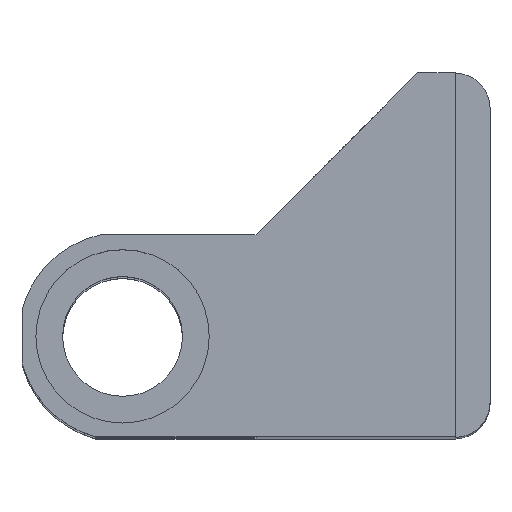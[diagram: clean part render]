
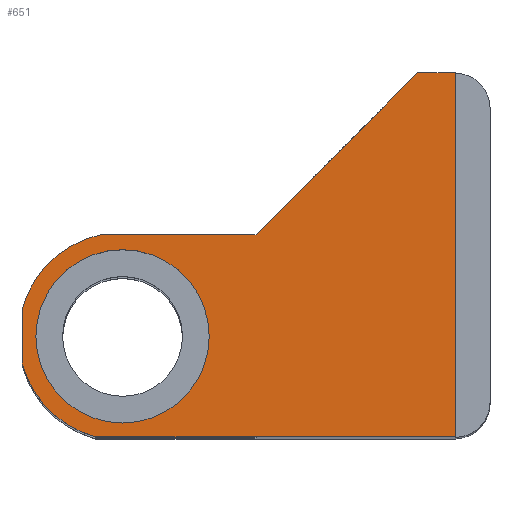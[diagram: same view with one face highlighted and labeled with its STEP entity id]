
A CAD part, top view. The second image highlights one B-rep face of the part: STEP entity #651.
In plain terms, the highlighted planar face has unit normal (0, 0, 1).
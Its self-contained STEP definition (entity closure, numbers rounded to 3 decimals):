
#24=FACE_BOUND('',#102,.T.);
#41=PLANE('',#714);
#62=FACE_OUTER_BOUND('',#101,.T.);
#101=EDGE_LOOP('',(#476,#477,#478,#479,#480,#481,#482,#483));
#102=EDGE_LOOP('',(#484));
#154=LINE('',#997,#213);
#161=LINE('',#1015,#220);
#169=LINE('',#1031,#228);
#170=LINE('',#1033,#229);
#171=LINE('',#1037,#230);
#172=LINE('',#1039,#231);
#213=VECTOR('',#791,10.);
#220=VECTOR('',#808,10.);
#228=VECTOR('',#818,10.);
#229=VECTOR('',#819,10.);
#230=VECTOR('',#822,10.);
#231=VECTOR('',#825,10.);
#271=CIRCLE('',#715,6.);
#272=CIRCLE('',#716,6.);
#273=CIRCLE('',#717,5.);
#303=VERTEX_POINT('',#994);
#304=VERTEX_POINT('',#996);
#309=VERTEX_POINT('',#1012);
#310=VERTEX_POINT('',#1014);
#317=VERTEX_POINT('',#1030);
#318=VERTEX_POINT('',#1032);
#319=VERTEX_POINT('',#1034);
#320=VERTEX_POINT('',#1036);
#321=VERTEX_POINT('',#1040);
#364=EDGE_CURVE('',#303,#304,#154,.T.);
#373=EDGE_CURVE('',#309,#310,#161,.T.);
#381=EDGE_CURVE('',#317,#303,#169,.T.);
#382=EDGE_CURVE('',#318,#317,#170,.T.);
#383=EDGE_CURVE('',#319,#318,#271,.T.);
#384=EDGE_CURVE('',#320,#319,#171,.T.);
#385=EDGE_CURVE('',#310,#320,#272,.T.);
#386=EDGE_CURVE('',#304,#309,#172,.T.);
#387=EDGE_CURVE('',#321,#321,#273,.T.);
#476=ORIENTED_EDGE('',*,*,#381,.F.);
#477=ORIENTED_EDGE('',*,*,#382,.F.);
#478=ORIENTED_EDGE('',*,*,#383,.F.);
#479=ORIENTED_EDGE('',*,*,#384,.F.);
#480=ORIENTED_EDGE('',*,*,#385,.F.);
#481=ORIENTED_EDGE('',*,*,#373,.F.);
#482=ORIENTED_EDGE('',*,*,#386,.F.);
#483=ORIENTED_EDGE('',*,*,#364,.F.);
#484=ORIENTED_EDGE('',*,*,#387,.F.);
#651=ADVANCED_FACE('',(#62,#24),#41,.F.);
#714=AXIS2_PLACEMENT_3D('',#1029,#816,#817);
#715=AXIS2_PLACEMENT_3D('',#1035,#820,#821);
#716=AXIS2_PLACEMENT_3D('',#1038,#823,#824);
#717=AXIS2_PLACEMENT_3D('',#1041,#826,#827);
#791=DIRECTION('',(1.,0.,0.));
#808=DIRECTION('',(-1.,0.,0.));
#816=DIRECTION('center_axis',(0.,0.,-1.));
#817=DIRECTION('ref_axis',(-1.,0.,0.));
#818=DIRECTION('',(0.707,0.707,0.));
#819=DIRECTION('',(1.,0.,0.));
#820=DIRECTION('center_axis',(0.,0.,-1.));
#821=DIRECTION('ref_axis',(0.203,-0.979,0.));
#822=DIRECTION('',(0.,1.,0.));
#823=DIRECTION('center_axis',(0.,0.,-1.));
#824=DIRECTION('ref_axis',(0.967,0.256,0.));
#825=DIRECTION('',(0.,-1.,0.));
#826=DIRECTION('center_axis',(0.,0.,1.));
#827=DIRECTION('ref_axis',(1.,0.,0.));
#994=CARTESIAN_POINT('',(9.325,10.5,-3.));
#996=CARTESIAN_POINT('',(11.5,10.5,-3.));
#997=CARTESIAN_POINT('',(-6.75,10.5,-3.));
#1012=CARTESIAN_POINT('',(11.5,-10.5,-3.));
#1014=CARTESIAN_POINT('',(-9.236,-10.5,-3.));
#1015=CARTESIAN_POINT('',(6.75,-10.5,-3.));
#1029=CARTESIAN_POINT('Origin',(0.,0.,-3.));
#1030=CARTESIAN_POINT('',(0.,1.175,-3.));
#1031=CARTESIAN_POINT('',(4.369,5.544,-3.));
#1032=CARTESIAN_POINT('',(-8.92,1.175,-3.));
#1033=CARTESIAN_POINT('',(0.,1.175,-3.));
#1034=CARTESIAN_POINT('',(-13.5,-3.164,-3.));
#1035=CARTESIAN_POINT('Origin',(-7.7,-4.7,-3.));
#1036=CARTESIAN_POINT('',(-13.5,-6.236,-3.));
#1037=CARTESIAN_POINT('',(-13.5,-5.25,-3.));
#1038=CARTESIAN_POINT('Origin',(-7.7,-4.7,-3.));
#1039=CARTESIAN_POINT('',(11.5,0.,-3.));
#1040=CARTESIAN_POINT('',(-12.7,-4.7,-3.));
#1041=CARTESIAN_POINT('Origin',(-7.7,-4.7,-3.));
